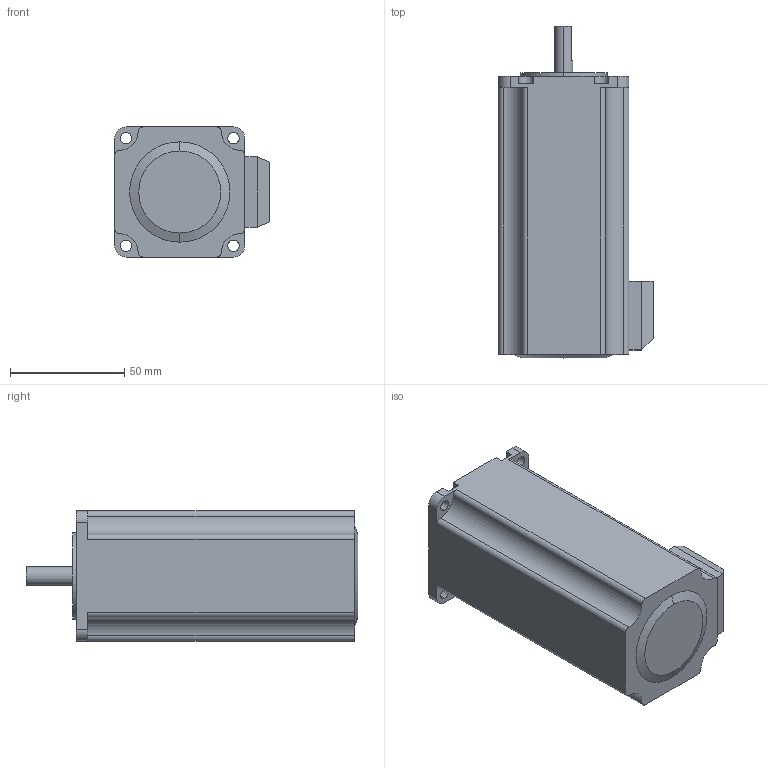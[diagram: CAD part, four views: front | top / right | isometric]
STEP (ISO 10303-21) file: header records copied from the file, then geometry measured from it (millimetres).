
FILE_DESCRIPTION (( 'STEP AP214' ), '1' );
FILE_NAME ('57A3ED（57HSM102D-D0822-001）.STEP', '2020-06-05T02:55:55', ( 'wimxt.com' ), ( 'wimxt.com' ), 'SwSTEP 2.0', 'SolidWorks 2014', '' );
FILE_SCHEMA (( 'AUTOMOTIVE_DESIGN' ));
Length unit declared in the file: millimetre
Products named in the file (1): 57A3ED（57HSM102D-D0822-001）
Bounding box: 67.7 x 145.5 x 57 mm (x, y, z)
Volume: 363273.7 mm3; surface area: 36956.3 mm2
Topology: 1 solids, 1 shells, 89 faces, 231 edges, 154 vertices
Faces by surface type: cylinder 46, plane 41, cone 2
Entity records: 2813 total; most frequent: DIRECTION 509, CARTESIAN_POINT 475, ORIENTED_EDGE 462, EDGE_CURVE 231, AXIS2_PLACEMENT_3D 188, VERTEX_POINT 154, VECTOR 133, LINE 133
